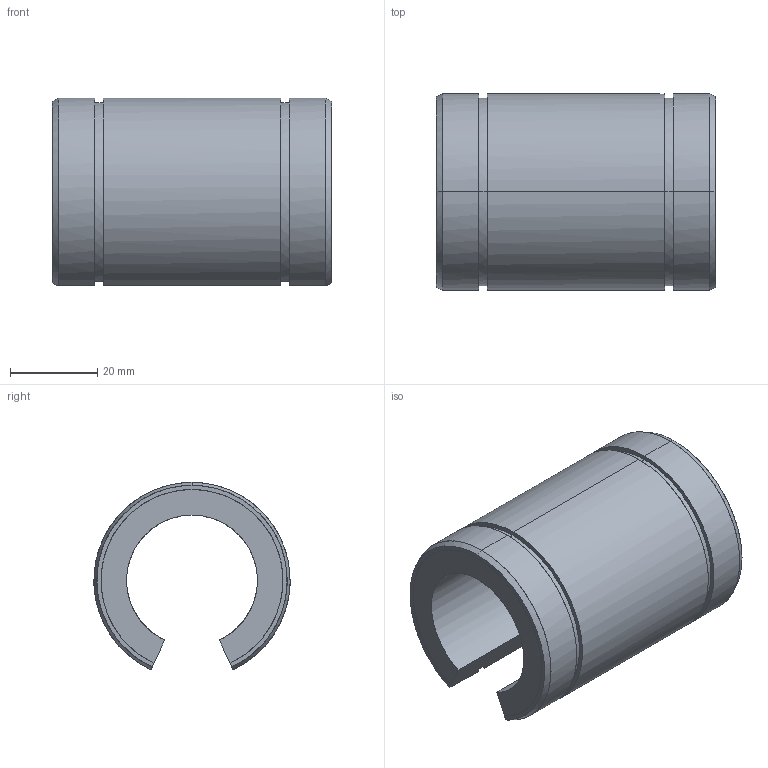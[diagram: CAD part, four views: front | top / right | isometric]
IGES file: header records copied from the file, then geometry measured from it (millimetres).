
Global section: file name: No Iges File Name specified; native system: AutoDesk Inventor R10; preprocessor: AutoDesk Inventor Iges Exporter R10; author: No Author specified; organization: No Organization specified; date: 20101208.113204; units: millimetre
Bounding box: 64 x 44.99 x 42.93 mm (x, y, z)
Surface area: 15820 mm2 (no closed solid volume)
Topology: 0 solids, 0 shells, 30 faces, 256 edges, 256 vertices
Faces by surface type: bspline 30
